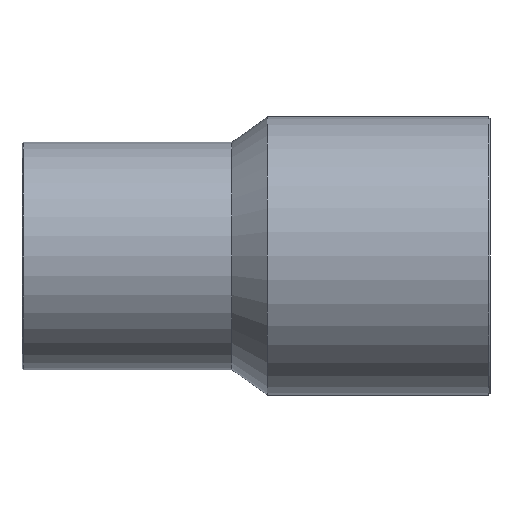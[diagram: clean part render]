
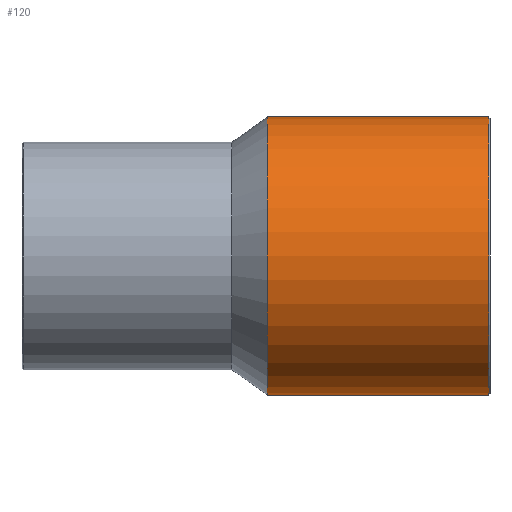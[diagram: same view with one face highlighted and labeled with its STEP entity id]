
A CAD part, front view. The second image highlights one B-rep face of the part: STEP entity #120.
In plain terms, the highlighted cylindrical face has radius 55 mm (diameter 110 mm), a full revolution.
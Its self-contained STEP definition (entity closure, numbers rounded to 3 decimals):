
#26=ORIENTED_EDGE('',*,*,#46,.T.);
#27=ORIENTED_EDGE('',*,*,#47,.F.);
#46=EDGE_CURVE('',#56,#56,#66,.T.);
#47=EDGE_CURVE('',#57,#57,#67,.T.);
#56=VERTEX_POINT('',#208);
#57=VERTEX_POINT('',#210);
#66=CIRCLE('',#144,55.);
#67=CIRCLE('',#145,55.);
#76=EDGE_LOOP('',(#26));
#77=EDGE_LOOP('',(#27));
#96=FACE_BOUND('',#76,.T.);
#97=FACE_BOUND('',#77,.T.);
#116=CYLINDRICAL_SURFACE('',#143,55.);
#120=ADVANCED_FACE('',(#96,#97),#116,.T.);
#143=AXIS2_PLACEMENT_3D('',#206,#165,#166);
#144=AXIS2_PLACEMENT_3D('',#207,#167,#168);
#145=AXIS2_PLACEMENT_3D('',#209,#169,#170);
#165=DIRECTION('',(-1.,0.,0.));
#166=DIRECTION('',(0.,0.,1.));
#167=DIRECTION('',(-1.,0.,0.));
#168=DIRECTION('',(0.,0.,1.));
#169=DIRECTION('',(-1.,0.,0.));
#170=DIRECTION('',(0.,0.,1.));
#206=CARTESIAN_POINT('',(-60.,0.,0.));
#207=CARTESIAN_POINT('',(94.5,0.,0.));
#208=CARTESIAN_POINT('',(94.5,0.,55.));
#209=CARTESIAN_POINT('',(7.,0.,0.));
#210=CARTESIAN_POINT('',(7.,0.,55.));
